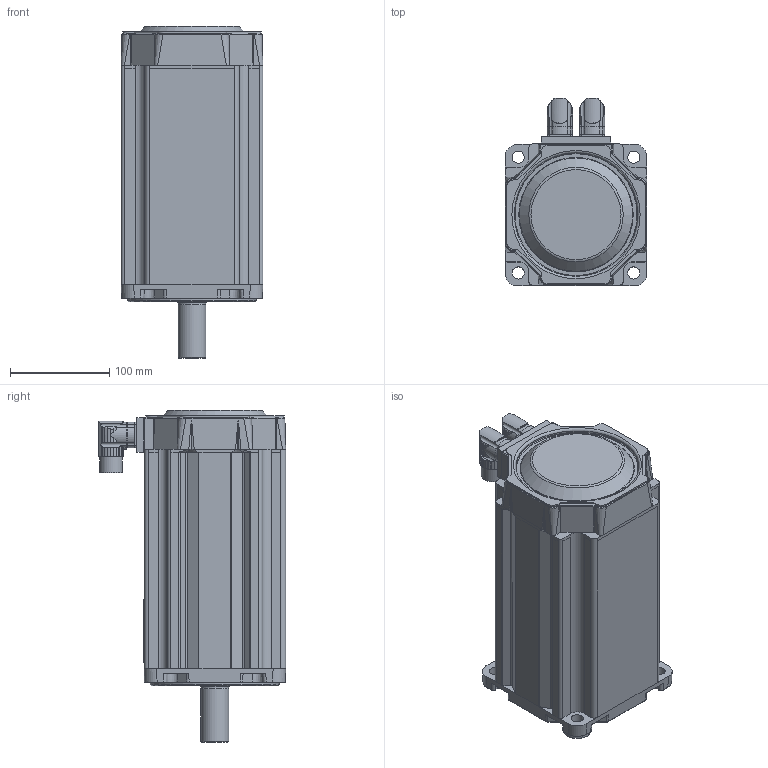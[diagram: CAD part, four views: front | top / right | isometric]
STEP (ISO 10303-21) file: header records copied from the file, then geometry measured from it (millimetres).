
FILE_DESCRIPTION((''),'2;1');
FILE_NAME('C:\Documents and Settings\jevans\My Documents\Engineering Projects\MPJ\MPJ1424XXX_NPSN.stp','2007-05-02T10:43:06',('jevans'),(''),'Autodesk Inventor 11','Autodesk Inventor 11','');
FILE_SCHEMA(('AUTOMOTIVE_DESIGN { 1 0 10303 214 1 1 1 1 }'));
Length unit declared in the file: inch
Products named in the file (4): MPJ1424XXX_NPSN; MPP142_MOTOR_1; MPP142_MOTOR_2; MPP142_MOTOR_3
Assembly tree (3 placements, depth 2):
  MPJ1424XXX_NPSN
    MPP142_MOTOR_1
    MPP142_MOTOR_2
    MPP142_MOTOR_3
Bounding box: 142.75 x 188.8 x 334.52 mm (x, y, z)
Volume: 4795803.3 mm3; surface area: 262418.2 mm2
Topology: 3 solids, 4 shells, 893 faces, 2260 edges, 1416 vertices
Faces by surface type: cylinder 401, plane 283, bspline 146, cone 39, torus 22, sphere 2
Full cylindrical faces by diameter (mm): 0.178 x1, 1.143 x17, 2.032 x6, 2.794 x2, 6.401 x8, 8.382 x1, 12.217 x4, 19.05 x2, 19.685 x2, 22.86 x2, 27.645 x1, 28.001 x1, 29.921 x1, 29.997 x1, 36.83 x1, 55.88 x1, 66.04 x1, 71.526 x1, 72.009 x1, 72.034 x2, 76.352 x1, 80.95 x1, 124.46 x1, 129.997 x1
Entity records: 34283 total; most frequent: CARTESIAN_POINT 13912, ORIENTED_EDGE 4310, DIRECTION 3967, EDGE_CURVE 2155, AXIS2_PLACEMENT_3D 1520, VERTEX_POINT 1398, EDGE_LOOP 1041, VECTOR 927
